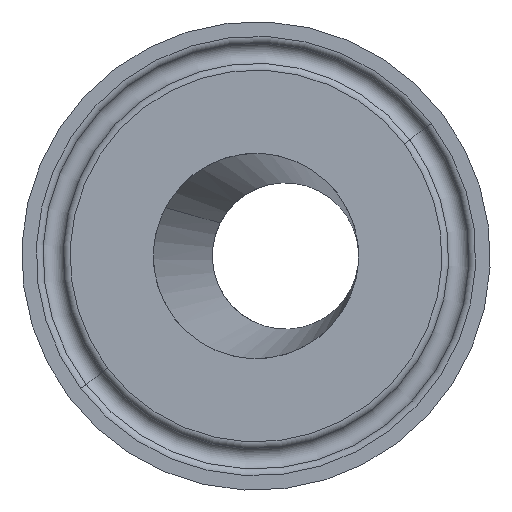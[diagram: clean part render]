
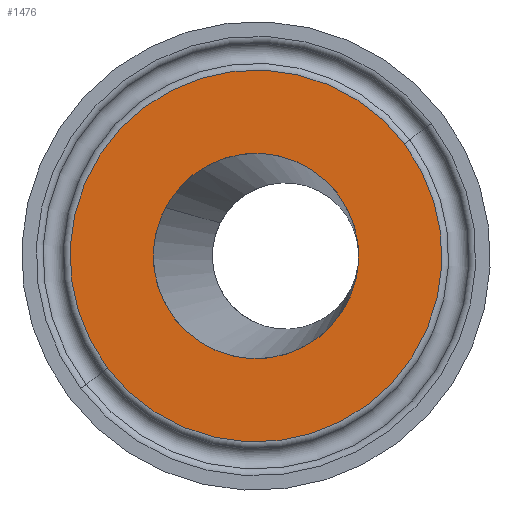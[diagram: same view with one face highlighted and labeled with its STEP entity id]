
A CAD part, left-side view. The second image highlights one B-rep face of the part: STEP entity #1476.
In plain terms, the highlighted planar face has unit normal (-1, 0, 0) as drawn and (0, -1, 0) by its records, which use the part's own axes.
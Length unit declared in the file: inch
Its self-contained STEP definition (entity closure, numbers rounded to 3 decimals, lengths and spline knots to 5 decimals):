
#41 = ORIENTED_EDGE ( 'NONE', *, *, #322, .F. ) ;
#49 = FACE_BOUND ( 'NONE', #479, .T. ) ;
#73 = DIRECTION ( 'NONE',  ( 0., 0., 1. ) ) ;
#76 = CARTESIAN_POINT ( 'NONE',  ( 0., 0., 0. ) ) ;
#90 = DIRECTION ( 'NONE',  ( 0., 0., -1. ) ) ;
#111 = CARTESIAN_POINT ( 'NONE',  ( 0., 0., 0. ) ) ;
#162 = DIRECTION ( 'NONE',  ( 0., 1., 0. ) ) ;
#196 = EDGE_CURVE ( 'NONE', #1742, #1191, #845, .T. ) ;
#222 = CARTESIAN_POINT ( 'NONE',  ( 0., 0., -0.78742 ) ) ;
#248 = AXIS2_PLACEMENT_3D ( 'NONE', #1133, #162, #73 ) ;
#304 = DIRECTION ( 'NONE',  ( 0., 0., -1. ) ) ;
#322 = EDGE_CURVE ( 'NONE', #1075, #651, #772, .T. ) ;
#368 = AXIS2_PLACEMENT_3D ( 'NONE', #111, #1194, #90 ) ;
#386 = DIRECTION ( 'NONE',  ( 0., 0., -1. ) ) ;
#401 = CARTESIAN_POINT ( 'NONE',  ( 0., 0., -0.435 ) ) ;
#479 = EDGE_LOOP ( 'NONE', ( #748, #41 ) ) ;
#509 = PLANE ( 'NONE',  #248 ) ;
#520 = DIRECTION ( 'NONE',  ( 0., 0., -1. ) ) ;
#641 = EDGE_LOOP ( 'NONE', ( #1411, #793 ) ) ;
#651 = VERTEX_POINT ( 'NONE', #401 ) ;
#680 = DIRECTION ( 'NONE',  ( 0., -1., 0. ) ) ;
#716 = EDGE_CURVE ( 'NONE', #651, #1075, #1546, .T. ) ;
#721 = AXIS2_PLACEMENT_3D ( 'NONE', #1872, #1089, #304 ) ;
#748 = ORIENTED_EDGE ( 'NONE', *, *, #716, .F. ) ;
#772 = CIRCLE ( 'NONE', #1945, 0.435 ) ;
#793 = ORIENTED_EDGE ( 'NONE', *, *, #196, .T. ) ;
#845 = CIRCLE ( 'NONE', #368, 0.78742 ) ;
#1075 = VERTEX_POINT ( 'NONE', #1774 ) ;
#1089 = DIRECTION ( 'NONE',  ( 0., -1., 0. ) ) ;
#1133 = CARTESIAN_POINT ( 'NONE',  ( 0., 0., 0. ) ) ;
#1191 = VERTEX_POINT ( 'NONE', #222 ) ;
#1194 = DIRECTION ( 'NONE',  ( 0., -1., 0. ) ) ;
#1224 = AXIS2_PLACEMENT_3D ( 'NONE', #1636, #1658, #520 ) ;
#1411 = ORIENTED_EDGE ( 'NONE', *, *, #1559, .T. ) ;
#1476 = ADVANCED_FACE ( 'NONE', ( #49, #1922 ), #509, .F. ) ;
#1546 = CIRCLE ( 'NONE', #721, 0.435 ) ;
#1559 = EDGE_CURVE ( 'NONE', #1191, #1742, #1584, .T. ) ;
#1584 = CIRCLE ( 'NONE', #1224, 0.78742 ) ;
#1636 = CARTESIAN_POINT ( 'NONE',  ( 0., 0., 0. ) ) ;
#1658 = DIRECTION ( 'NONE',  ( 0., -1., 0. ) ) ;
#1742 = VERTEX_POINT ( 'NONE', #1810 ) ;
#1774 = CARTESIAN_POINT ( 'NONE',  ( 0., 0., 0.435 ) ) ;
#1810 = CARTESIAN_POINT ( 'NONE',  ( 0., 0., 0.78742 ) ) ;
#1872 = CARTESIAN_POINT ( 'NONE',  ( 0., 0., 0. ) ) ;
#1922 = FACE_OUTER_BOUND ( 'NONE', #641, .T. ) ;
#1945 = AXIS2_PLACEMENT_3D ( 'NONE', #76, #680, #386 ) ;
